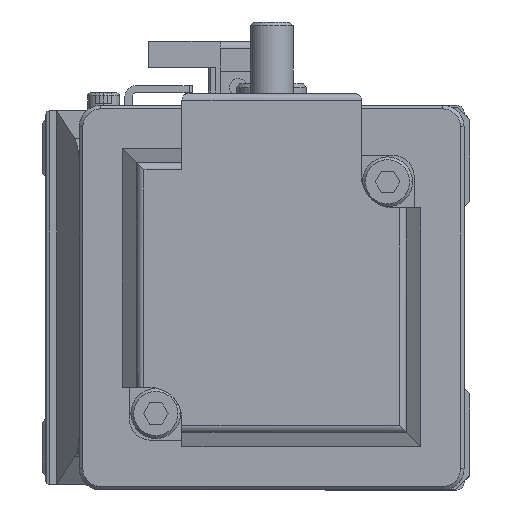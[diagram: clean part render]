
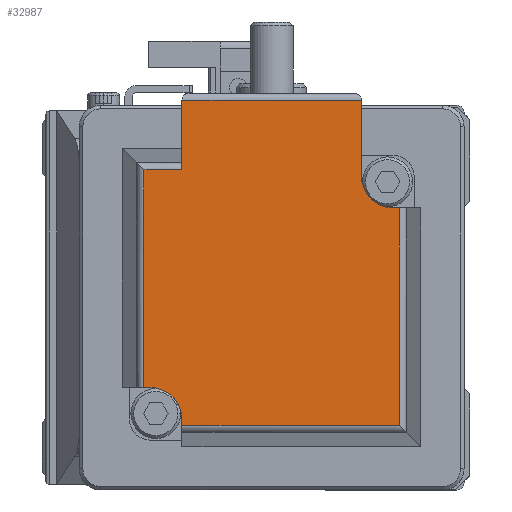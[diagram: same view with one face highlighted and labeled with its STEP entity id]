
A CAD part, left-side view. The second image highlights one B-rep face of the part: STEP entity #32987.
In plain terms, the highlighted planar face has unit normal (-1, 0, 0) as drawn and (0, 1, 0) by its records, which use the part's own axes.
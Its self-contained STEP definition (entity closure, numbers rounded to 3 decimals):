
#1036 = DIRECTION ( 'NONE',  ( 1., 0., 0. ) ) ;
#1097 = CARTESIAN_POINT ( 'NONE',  ( 17.1, 100.6, 17.1 ) ) ;
#1373 = LINE ( 'NONE', #11319, #24440 ) ;
#1465 = CARTESIAN_POINT ( 'NONE',  ( 12.6, 100.6, 17.1 ) ) ;
#1783 = ORIENTED_EDGE ( 'NONE', *, *, #29129, .F. ) ;
#2113 = LINE ( 'NONE', #16936, #10624 ) ;
#2157 = DIRECTION ( 'NONE',  ( 1., 0., 0. ) ) ;
#2319 = EDGE_CURVE ( 'NONE', #31248, #16893, #2442, .T. ) ;
#2442 = LINE ( 'NONE', #14574, #29118 ) ;
#2712 = CARTESIAN_POINT ( 'NONE',  ( 17.929, 100.6, 25. ) ) ;
#2991 = CARTESIAN_POINT ( 'NONE',  ( 12.6, 100.6, 17.929 ) ) ;
#3055 = DIRECTION ( 'NONE',  ( 0., -1., 0. ) ) ;
#3568 = CARTESIAN_POINT ( 'NONE',  ( 17.1, 100.6, 12.6 ) ) ;
#3741 = EDGE_CURVE ( 'NONE', #6747, #11635, #14839, .T. ) ;
#3985 = CARTESIAN_POINT ( 'NONE',  ( 27.7, 100.6, -12.6 ) ) ;
#4499 = EDGE_CURVE ( 'NONE', #25695, #9655, #29426, .T. ) ;
#4892 = ORIENTED_EDGE ( 'NONE', *, *, #17941, .F. ) ;
#5447 = CARTESIAN_POINT ( 'NONE',  ( 17.929, 100.6, 17.929 ) ) ;
#5579 = VECTOR ( 'NONE', #15602, 1000. ) ;
#5750 = VECTOR ( 'NONE', #15513, 1000. ) ;
#5819 = VECTOR ( 'NONE', #22887, 1000. ) ;
#5857 = CARTESIAN_POINT ( 'NONE',  ( 27.7, 100.6, 12.6 ) ) ;
#6747 = VERTEX_POINT ( 'NONE', #7246 ) ;
#6806 = ORIENTED_EDGE ( 'NONE', *, *, #24901, .F. ) ;
#7088 = CARTESIAN_POINT ( 'NONE',  ( -12.6, 100.6, -17.1 ) ) ;
#7208 = CARTESIAN_POINT ( 'NONE',  ( -17.1, 100.6, -17.1 ) ) ;
#7246 = CARTESIAN_POINT ( 'NONE',  ( -12.6, 100.6, -17.929 ) ) ;
#7424 = DIRECTION ( 'NONE',  ( 0., -1., 0. ) ) ;
#7790 = AXIS2_PLACEMENT_3D ( 'NONE', #7208, #7424, #10164 ) ;
#8059 = AXIS2_PLACEMENT_3D ( 'NONE', #2712, #3055, #28704 ) ;
#8967 = AXIS2_PLACEMENT_3D ( 'NONE', #1097, #14288, #31967 ) ;
#9265 = VERTEX_POINT ( 'NONE', #1465 ) ;
#9655 = VERTEX_POINT ( 'NONE', #25235 ) ;
#9791 = EDGE_CURVE ( 'NONE', #13030, #10612, #31725, .T. ) ;
#10164 = DIRECTION ( 'NONE',  ( 0., 0., -1. ) ) ;
#10612 = VERTEX_POINT ( 'NONE', #26037 ) ;
#10624 = VECTOR ( 'NONE', #27360, 1000. ) ;
#10678 = CARTESIAN_POINT ( 'NONE',  ( -17.1, 100.6, -12.6 ) ) ;
#11319 = CARTESIAN_POINT ( 'NONE',  ( 17.929, 100.6, -17.929 ) ) ;
#11372 = EDGE_CURVE ( 'NONE', #10612, #30529, #13769, .T. ) ;
#11635 = VERTEX_POINT ( 'NONE', #7088 ) ;
#12077 = ORIENTED_EDGE ( 'NONE', *, *, #11372, .F. ) ;
#12462 = LINE ( 'NONE', #5447, #5579 ) ;
#12933 = CARTESIAN_POINT ( 'NONE',  ( -17.929, 100.6, 17.929 ) ) ;
#13030 = VERTEX_POINT ( 'NONE', #19942 ) ;
#13251 = CARTESIAN_POINT ( 'NONE',  ( 17.929, 100.6, -12.6 ) ) ;
#13769 = LINE ( 'NONE', #32090, #14191 ) ;
#14191 = VECTOR ( 'NONE', #2157, 1000. ) ;
#14233 = ORIENTED_EDGE ( 'NONE', *, *, #3741, .T. ) ;
#14288 = DIRECTION ( 'NONE',  ( 0., 1., 0. ) ) ;
#14574 = CARTESIAN_POINT ( 'NONE',  ( 17.929, 100.6, 12.6 ) ) ;
#14839 = LINE ( 'NONE', #16595, #33085 ) ;
#15102 = EDGE_CURVE ( 'NONE', #30529, #31248, #29634, .T. ) ;
#15421 = ORIENTED_EDGE ( 'NONE', *, *, #28391, .F. ) ;
#15513 = DIRECTION ( 'NONE',  ( 0., 0., 1. ) ) ;
#15602 = DIRECTION ( 'NONE',  ( -1., 0., 0. ) ) ;
#16031 = ORIENTED_EDGE ( 'NONE', *, *, #15102, .F. ) ;
#16595 = CARTESIAN_POINT ( 'NONE',  ( -12.6, 100.6, -21. ) ) ;
#16820 = EDGE_LOOP ( 'NONE', ( #24368, #16031, #12077, #27487, #1783, #14233, #27866, #15421, #20288, #4892, #23517, #6806 ) ) ;
#16893 = VERTEX_POINT ( 'NONE', #3568 ) ;
#16936 = CARTESIAN_POINT ( 'NONE',  ( 12.6, 100.6, 25. ) ) ;
#17941 = EDGE_CURVE ( 'NONE', #28325, #25695, #12462, .T. ) ;
#17994 = LINE ( 'NONE', #13251, #29321 ) ;
#19942 = CARTESIAN_POINT ( 'NONE',  ( 17.929, 100.6, -17.929 ) ) ;
#20288 = ORIENTED_EDGE ( 'NONE', *, *, #4499, .F. ) ;
#20969 = DIRECTION ( 'NONE',  ( 1., 0., 0. ) ) ;
#20986 = CIRCLE ( 'NONE', #7790, 4.5 ) ;
#21220 = EDGE_CURVE ( 'NONE', #9265, #28325, #2113, .T. ) ;
#21286 = CIRCLE ( 'NONE', #8967, 4.5 ) ;
#22584 = FACE_OUTER_BOUND ( 'NONE', #16820, .T. ) ;
#22661 = DIRECTION ( 'NONE',  ( -1., 0., 0. ) ) ;
#22786 = CARTESIAN_POINT ( 'NONE',  ( -17.929, 100.6, 25. ) ) ;
#22852 = EDGE_CURVE ( 'NONE', #11635, #23778, #20986, .T. ) ;
#22887 = DIRECTION ( 'NONE',  ( 0., 0., 1. ) ) ;
#23517 = ORIENTED_EDGE ( 'NONE', *, *, #21220, .F. ) ;
#23778 = VERTEX_POINT ( 'NONE', #10678 ) ;
#24368 = ORIENTED_EDGE ( 'NONE', *, *, #2319, .F. ) ;
#24440 = VECTOR ( 'NONE', #1036, 1000. ) ;
#24901 = EDGE_CURVE ( 'NONE', #16893, #9265, #21286, .T. ) ;
#25235 = CARTESIAN_POINT ( 'NONE',  ( -17.929, 100.6, -12.6 ) ) ;
#25695 = VERTEX_POINT ( 'NONE', #12933 ) ;
#25886 = PLANE ( 'NONE',  #8059 ) ;
#26037 = CARTESIAN_POINT ( 'NONE',  ( 17.929, 100.6, -12.6 ) ) ;
#26161 = CARTESIAN_POINT ( 'NONE',  ( 27.7, 100.6, 25. ) ) ;
#26587 = VECTOR ( 'NONE', #32952, 1000. ) ;
#27360 = DIRECTION ( 'NONE',  ( 0., 0., 1. ) ) ;
#27487 = ORIENTED_EDGE ( 'NONE', *, *, #9791, .F. ) ;
#27866 = ORIENTED_EDGE ( 'NONE', *, *, #22852, .T. ) ;
#28325 = VERTEX_POINT ( 'NONE', #2991 ) ;
#28391 = EDGE_CURVE ( 'NONE', #9655, #23778, #17994, .T. ) ;
#28704 = DIRECTION ( 'NONE',  ( 0., 0., -1. ) ) ;
#29118 = VECTOR ( 'NONE', #22661, 1000. ) ;
#29129 = EDGE_CURVE ( 'NONE', #6747, #13030, #1373, .T. ) ;
#29321 = VECTOR ( 'NONE', #20969, 1000. ) ;
#29426 = LINE ( 'NONE', #22786, #26587 ) ;
#29503 = DIRECTION ( 'NONE',  ( 0., 0., 1. ) ) ;
#29634 = LINE ( 'NONE', #26161, #5750 ) ;
#30529 = VERTEX_POINT ( 'NONE', #3985 ) ;
#30880 = CARTESIAN_POINT ( 'NONE',  ( 17.929, 100.6, 25. ) ) ;
#31248 = VERTEX_POINT ( 'NONE', #5857 ) ;
#31725 = LINE ( 'NONE', #30880, #5819 ) ;
#31967 = DIRECTION ( 'NONE',  ( 0., 0., -1. ) ) ;
#32090 = CARTESIAN_POINT ( 'NONE',  ( 17.929, 100.6, -12.6 ) ) ;
#32952 = DIRECTION ( 'NONE',  ( 0., 0., -1. ) ) ;
#32987 = ADVANCED_FACE ( 'NONE', ( #22584 ), #25886, .F. ) ;
#33085 = VECTOR ( 'NONE', #29503, 1000. ) ;
